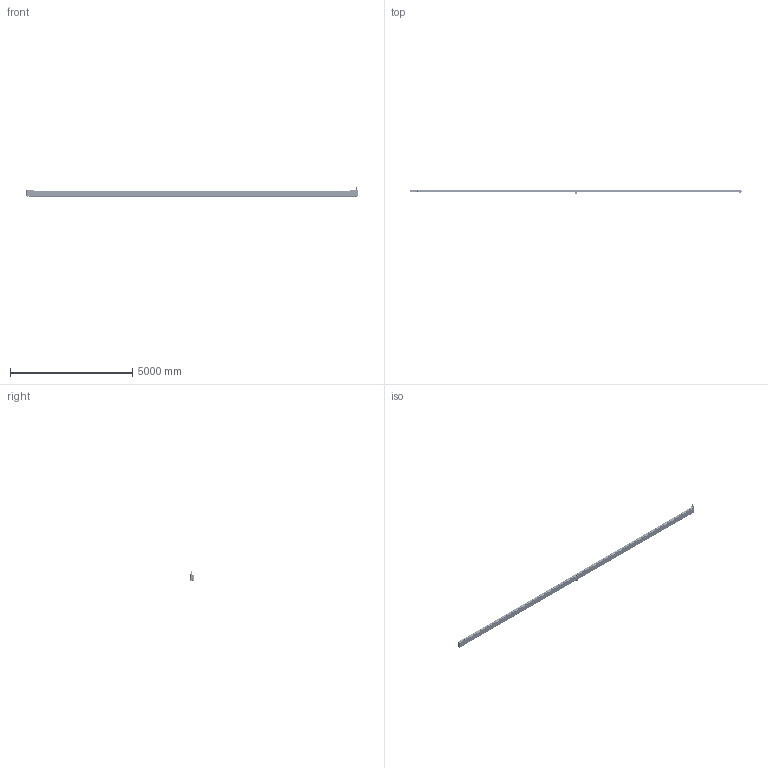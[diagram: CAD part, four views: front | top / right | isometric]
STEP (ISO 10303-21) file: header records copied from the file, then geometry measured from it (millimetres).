
FILE_DESCRIPTION (( 'STEP AP203' ), '1' );
FILE_NAME ('NASTRO_RETTILINEO_TAPPETO.step', '2026-04-22T07:49:01', ( 'Utente Windows' ), ( '' ), 'SwSTEP 2.0', 'SolidWorks 2024', '' );
FILE_SCHEMA (( 'CONFIG_CONTROL_DESIGN' ));
Length unit declared in the file: millimetre
Products named in the file (47): 084.802.071; 084.802.062; VITI TE UNI 5739_M8x16 UNI 5739; BLOCCO_RINVIO_95_STANDARD_CON TENDINASTRO E CARTER; 084.802.068; 084.802.060_Default<A macchina>; BLOCCO_TRAINO_95_STANDARD_CON TENDINASTRO E CARTER; 084.802.034_084.802.034; NASTRO_RETTILINEO_TAPPETO; 084.302.060; 084.802.028; 30UNI7435; RULLO_REGGITAPPETO; VITI TE UNI 5739_M8x12 UNI 5739; VITE_DADO_M5X12; VITE_RONDELLA_M8X20; 084.810.003; 084.303.001; 084.812.003; LAMIERA_STANDARD; 084.802.013-2; BLOCCO_TRAINO_95_STANDARD_63_CON TENDINASTRO E SENZA CARTER; 084.803.003; BLOCCO_REGGITAPPETO; VITI TCEI UNI 5931_M4x25 UNI 5931; CHIAVETTE_A 8x7x70 UNI 6604-69; VITI TSEI UNI 5933_M4x12 UNI 5933; 084.302.000 DADI ALUSIC 13x13-1_084.302.004; 084.802.067_Default<A macchina>; 084.802.017_084.802.017; BLOCCO_PERNO_95_63; CHIAVETTE_A 8x7x20 UNI 6604-69; 084.302.000 DADI ALUSIC 13x13-1_084.302.007; 084.808.003_084.808.003; RULLO_95_Default<A macchina>; BLOCCO_BRACCIO_CH06P_CH06P; TELAIO_95_STANDARD_Default<A macchina>; 084.301.000 VITI ALUSIC_084.301.003; 084.802.014; RONDELLE FASCIA LARGA UNI 6593_8.4x32 UNI 6593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
Assembly tree (251 placements, depth 4):
  NASTRO_RETTILINEO_TAPPETO
    TAPPETO_STANDARD
    TELAIO_95_STANDARD_Default<A macchina>
    LAMIERA_STANDARD  x6
    RULLO_95_Default<A macchina>  x2
    BLOCCO_PERNO_95_63
      084.812.004
      084.810.003
      CHIAVETTE_A 8x7x70 UNI 6604-69
      RONDELLE FASCIA LARGA UNI 6593_8.4x32 UNI 6593
      VITI TE UNI 5739_M8x16 UNI 5739
      CHIAVETTE_A 8x7x20 UNI 6604-69
      30UNI7435
    BLOCCO_TRAINO_95_STANDARD_63_CON TENDINASTRO E SENZA CARTER
      084.808.003_084.808.003
      084.302.060  x2
      084.802.034_084.802.034
      084.301.000 VITI ALUSIC_084.301.003  x6
      084.802.067_Default<A macchina>
      VITI TCEI UNI 5931_M4x25 UNI 5931  x2
      BLOCCO_BRACCIO_CH06P_CH06P
        084.808.013
        084.802.062
        084.802.060_Default<A macchina>
        VITI TE UNI 5739_M8x12 UNI 5739  x12
    BLOCCO_PERNO_95_RINVIO  x3
      084.812.003
      084.810.003
      30UNI7435
    BLOCCO_TRAINO_95_STANDARD_CON TENDINASTRO E CARTER
      084.808.002_084.808.002
      084.302.060  x2
      084.802.019_084.802.019
      084.301.000 VITI ALUSIC_084.301.003  x6
      VITI TCEI UNI 5931_M4x25 UNI 5931  x2
      084.802.071
      084.802.068
      VITI TSEI UNI 5933_M4x12 UNI 5933  x2
    BLOCCO_RINVIO_95_STANDARD_CON TENDINASTRO E CARTER  x2
      084.808.002_084.808.002
      084.803.003
      084.302.060
      084.802.019_084.802.019
      VITI TSEI UNI 5933_M4x12 UNI 5933
      084.302.000 DADI ALUSIC 13x13-1_084.302.004
      084.301.000 VITI ALUSIC_084.301.003
      084.802.071
    VITE_RONDELLA_M8X20  x85
      084.303.001
      084.301.000 VITI ALUSIC_084.301.003
    VITE_DADO_M5X12  x60
      084.302.000 DADI ALUSIC 13x13-1_084.302.007
      VITI TSEI UNI 5933_M5x12 UNI 5933
    BLOCCO_REGGITAPPETO  x2
      084.301.000 VITI ALUSIC_084.301.003
      084.302.000 DADI ALUSIC 13x13-1_084.302.004
      084.802.017_084.802.017
      084.802.028
      084.802.014
      084.802.013-2
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Bounding box: 13604.29 x 161.15 x 430.83 mm (x, y, z)
Volume: 51807131.2 mm3; surface area: 44906360.9 mm2
Topology: 509 solids, 514 shells, 14853 faces, 38052 edges, 24450 vertices
Faces by surface type: plane 8420, cylinder 3931, cone 1160, torus 749, bspline 529, sphere 64
Entity records: 253562 total; most frequent: CARTESIAN_POINT 68785, ORIENTED_EDGE 38014, DIRECTION 34884, EDGE_CURVE 19007, VERTEX_POINT 12381, LINE 12128, VECTOR 12128, AXIS2_PLACEMENT_3D 11378
